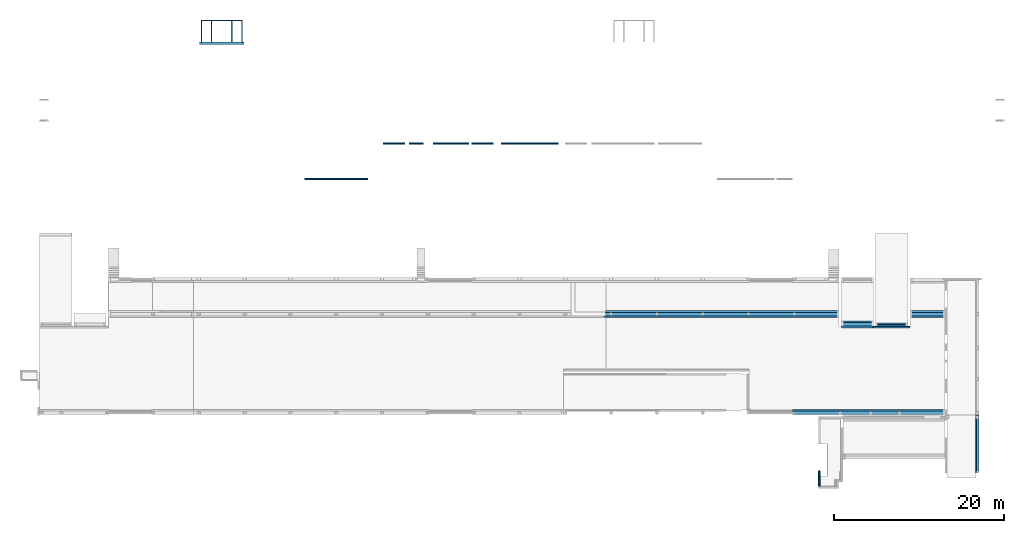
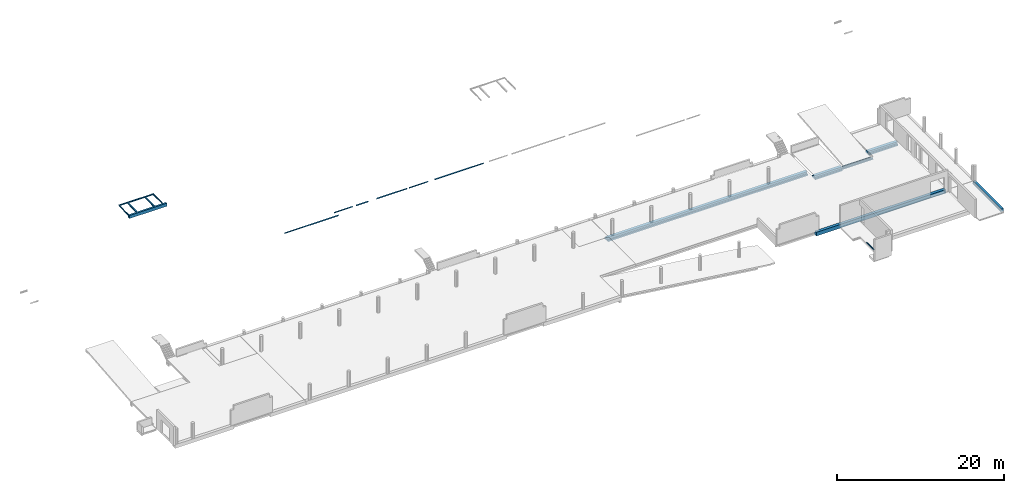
# One storey, part 2 of 9: 20 beams.
"""IFC2X3 building model written with IfcOpenShell, lengths in millimetres."""

from ifc_helpers import new_model, entity, si_unit, converted_unit, derived_unit, direction, frame, frame_2d, origin, place, context, subcontext, project, spatial, polyline, circle_curve, parameter, trimmed, segment, composite_curve, i_section, outline, extrude, material, type_object, element, save


model = new_model("IFC2X3")

# Units and contexts
model_context = context("Model", 3, precision=0.01, world=origin(), true_north=direction((6.12303176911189e-17, 1.0)))
body_context = subcontext(model_context, "Body", "Model", "MODEL_VIEW")
ifc_project = project(units=[si_unit("LENGTHUNIT", "METRE", prefix="MILLI"), si_unit("AREAUNIT", "SQUARE_METRE"), si_unit("VOLUMEUNIT", "CUBIC_METRE"), converted_unit("PLANEANGLEUNIT", "DEGREE", entity("IfcRatioMeasure", 0.0174532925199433), si_unit("PLANEANGLEUNIT", "RADIAN"), dimensions=[0, 0, 0, 0, 0, 0, 0]), si_unit("MASSUNIT", "GRAM", prefix="KILO"), derived_unit("MASSDENSITYUNIT", [(si_unit("MASSUNIT", "GRAM", prefix="KILO"), 1), (si_unit("LENGTHUNIT", "METRE"), -3)]), si_unit("TIMEUNIT", "SECOND"), si_unit("FREQUENCYUNIT", "HERTZ"), si_unit("THERMODYNAMICTEMPERATUREUNIT", "DEGREE_CELSIUS"), derived_unit("THERMALTRANSMITTANCEUNIT", [(si_unit("MASSUNIT", "GRAM", prefix="KILO"), 1), (si_unit("THERMODYNAMICTEMPERATUREUNIT", "KELVIN"), -1), (si_unit("TIMEUNIT", "SECOND"), -3)]), derived_unit("VOLUMETRICFLOWRATEUNIT", [(si_unit("LENGTHUNIT", "METRE"), 3), (si_unit("TIMEUNIT", "SECOND"), -1)]), si_unit("ELECTRICCURRENTUNIT", "AMPERE"), si_unit("ELECTRICVOLTAGEUNIT", "VOLT"), si_unit("POWERUNIT", "WATT"), si_unit("FORCEUNIT", "NEWTON", prefix="KILO"), si_unit("ILLUMINANCEUNIT", "LUX"), si_unit("LUMINOUSFLUXUNIT", "LUMEN"), si_unit("LUMINOUSINTENSITYUNIT", "CANDELA"), derived_unit("USERDEFINED", [(si_unit("MASSUNIT", "GRAM", prefix="KILO"), -1), (si_unit("LENGTHUNIT", "METRE"), -2), (si_unit("TIMEUNIT", "SECOND"), 3), (si_unit("LUMINOUSFLUXUNIT", "LUMEN"), 1)]), derived_unit("LINEARVELOCITYUNIT", [(si_unit("LENGTHUNIT", "METRE"), 1), (si_unit("TIMEUNIT", "SECOND"), -1)]), si_unit("PRESSUREUNIT", "PASCAL"), derived_unit("USERDEFINED", [(si_unit("LENGTHUNIT", "METRE"), -2), (si_unit("MASSUNIT", "GRAM", prefix="KILO"), 1), (si_unit("TIMEUNIT", "SECOND"), -2)])], contexts=[model_context])

# Site, building, storey
site_placement = place(None, origin())
site = spatial("IfcSite", under=ifc_project, at=site_placement, Name="Default", CompositionType="ELEMENT")
building_placement = place(site_placement, origin())
building = spatial("IfcBuilding", under=site, at=building_placement, Name="niet gebruiken", CompositionType="ELEMENT")
storey_placement = place(building_placement, frame((0.0, 0.0, 2770.0)))
storey = spatial("IfcBuildingStorey", under=building, at=storey_placement, Name="00a eerste tussenverdieping", CompositionType="ELEMENT", Elevation=2770.00000000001)

# Beams
ifc_material_1 = material(Name="NLRS_f2_beton prefab")
beam_type_1 = type_object("IfcBeamType", Name="NLRS_28.11_SF_WPB_prefabbeton balk enkele sponning_gen:600x540/200x200", PredefinedType="BEAM")
beam_1_placement = place(storey_placement, frame((97000.0, 9296.0, 10.0)))
element("IfcBeam", 1, at=beam_1_placement, inside=storey, type_object=beam_type_1, material=ifc_material_1, Name="NLRS_28.11_SF_WPB_prefabbeton balk enkele sponning_gen:600x540/200x200", ObjectType="NLRS_28.11_SF_WPB_prefabbeton balk enkele sponning_gen:600x540/200x200", context=body_context, shape_type="SweptSolid", body=[
    extrude(outline(polyline([(-293.333333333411, -333.333333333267), (246.666666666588, -333.333333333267), (246.666666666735, 266.666666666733), (46.6666666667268, 266.666666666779), (46.6666666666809, 66.6666666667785), (-293.333333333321, 66.6666666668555), (-293.333333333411, -333.333333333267)])), frame((0.0, 33.3333333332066, -293.333333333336), z_axis=(1.0, 0.0, 0.0), x_axis=(0.0, 0.0, -1.0)), (0.0, 0.0, 1.0), 17930.0004069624),
])
beam_type_2 = type_object("IfcBeamType", Name="NLRS_28.11_SF_WPB_prefabbeton balk dubbele sponning_gen:800x460/200x260/200x260", PredefinedType="BEAM")
beam_2_placement = place(storey_placement, frame((74750.0, 20846.0, -70.0)))
element("IfcBeam", 2, at=beam_2_placement, inside=storey, type_object=beam_type_2, material=ifc_material_1, Name="NLRS_28.11_SF_WPB_prefabbeton balk dubbele sponning_gen:800x460/200x260/200x260", ObjectType="NLRS_28.11_SF_WPB_prefabbeton balk dubbele sponning_gen:800x460/200x260/200x260", context=body_context, shape_type="SweptSolid", body=[
    extrude(outline(polyline([(15.0, -400.0), (215.0, -400.0), (215.0, 400.0), (15.0, 400.0), (15.0, 200.0), (-245.0, 200.0), (-245.0, -200.0), (15.0, -200.0), (15.0, -400.0)])), frame((0.0, 0.0, -245.0), z_axis=(1.0, 0.0, 0.0), x_axis=(0.0, 0.0, -1.0)), (0.0, 0.0, 1.0), 27705.0000000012),
])
beam_3_placement = place(storey_placement, frame((110845.0, 20846.0, -70.0)))
element("IfcBeam", 3, at=beam_3_placement, inside=storey, type_object=beam_type_2, material=ifc_material_1, Name="NLRS_28.11_SF_WPB_prefabbeton balk dubbele sponning_gen:800x460/200x260/200x260", ObjectType="NLRS_28.11_SF_WPB_prefabbeton balk dubbele sponning_gen:800x460/200x260/200x260", context=body_context, shape_type="SweptSolid", body=[
    extrude(outline(polyline([(15.0, -400.0), (215.0, -400.0), (215.0, 400.0), (15.0, 400.0), (15.0, 200.0), (-245.0, 200.0), (-245.0, -200.0), (15.0, -200.0), (15.0, -400.0)])), frame((0.0, 0.0, -245.0), z_axis=(1.0, 0.0, 0.0), x_axis=(0.0, 0.0, -1.0)), (0.0, 0.0, 1.0), 4085.00000000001),
])
beam_4_placement = place(storey_placement, frame((102745.0, 19626.0, -70.0)))
element("IfcBeam", 4, at=beam_4_placement, inside=storey, type_object=beam_type_2, material=ifc_material_1, Name="NLRS_28.11_SF_WPB_prefabbeton balk dubbele sponning_gen:800x460/200x260/200x260", ObjectType="NLRS_28.11_SF_WPB_prefabbeton balk dubbele sponning_gen:800x460/200x260/200x260", context=body_context, shape_type="SweptSolid", body=[
    extrude(outline(polyline([(15.0, -400.0), (215.0, -400.0), (215.0, 400.0), (15.0, 400.0), (15.0, 200.0), (-245.0, 200.0), (-245.0, -200.0), (15.0, -200.0), (15.0, -400.0)])), frame((0.0, 0.0, -245.0), z_axis=(1.0, 0.0, 0.0), x_axis=(0.0, 0.0, -1.0)), (0.0, 0.0, 1.0), 3760.00000000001),
])
ifc_material_2 = material(Name="NLRS_h2_staal")
beam_type_3 = type_object("IfcBeamType", Name="NLRS_28.11_SF_WPB_stalen ligger hoekprofiel gelijkzijdig_gen:ligger gelijzijdig hoekprofiel LEQU_200x200x15", PredefinedType="BEAM")
beam_5_placement = place(storey_placement, frame((106525.0, 19226.0, -252.499999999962)))
element("IfcBeam", 5, at=beam_5_placement, inside=storey, type_object=beam_type_3, material=ifc_material_2, Name="NLRS_28.11_SF_WPB_stalen ligger hoekprofiel gelijkzijdig_gen:ligger gelijzijdig hoekprofiel LEQU_200x200x15", ObjectType="NLRS_28.11_SF_WPB_stalen ligger hoekprofiel gelijkzijdig_gen:ligger gelijzijdig hoekprofiel LEQU_200x200x15", context=body_context, shape_type="SweptSolid", body=[
    extrude(outline(composite_curve([segment(polyline([(66.3333333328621, -126.666666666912), (73.3333333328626, -126.666666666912)]), True, "CONTINUOUS"), segment(polyline([(73.3333333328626, -126.666666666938), (73.3333333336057, 73.3333333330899)]), True, "CONTINUOUS"), segment(polyline([(73.3333333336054, 73.3333333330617), (-126.666666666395, 73.3333333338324)]), True, "CONTINUOUS"), segment(polyline([(-126.666666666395, 73.3333333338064), (-126.666666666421, 66.3333333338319)]), True, "CONTINUOUS"), segment(trimmed(circle_curve(frame_2d((-118.666666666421, 66.333333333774), x_axis=(-1.0, 0.0)), 8.00000000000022), [parameter(0.0)], [parameter(90.0000000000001)], True, "PARAMETER"), True, "CONTINUOUS"), segment(polyline([(-118.666666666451, 58.3333333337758), (42.333333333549, 58.333333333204)]), True, "CONTINUOUS"), segment(trimmed(circle_curve(frame_2d((42.3333333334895, 42.3333333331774), x_axis=(0.0, 1.0)), 16.0000000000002), [parameter(270.0)], [parameter(0.0)], True, "PARAMETER"), False, "CONTINUOUS"), segment(polyline([(58.3333333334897, 42.3333333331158), (58.333333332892, -118.666666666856)]), True, "CONTINUOUS"), segment(trimmed(circle_curve(frame_2d((66.3333333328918, -118.666666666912), x_axis=(-1.0, 0.0)), 8.00000000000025), [parameter(0.0)], [parameter(89.9999999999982)], True, "PARAMETER"), True, "CONTINUOUS")], self_intersect=False)), frame((0.0, 126.666666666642, -19.1666666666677), z_axis=(1.0, 0.0, 0.0), x_axis=(0.0, 0.0, -1.0)), (0.0, 0.0, 1.0), 4300.0000000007),
])
beam_6_placement = place(storey_placement, frame((100117.5, 2375.0, 1430.0), z_axis=(0.0, 0.0, 1.0), x_axis=(0.0, -1.0, 0.0)))
element("IfcBeam", 6, at=beam_6_placement, inside=storey, type_object=beam_type_3, material=ifc_material_2, Name="NLRS_28.11_SF_WPB_stalen ligger hoekprofiel gelijkzijdig_gen:ligger gelijzijdig hoekprofiel LEQU_200x200x15", ObjectType="NLRS_28.11_SF_WPB_stalen ligger hoekprofiel gelijkzijdig_gen:ligger gelijzijdig hoekprofiel LEQU_200x200x15", context=body_context, shape_type="SweptSolid", body=[
    extrude(outline(composite_curve([segment(polyline([(-126.666666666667, -73.3333333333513), (73.333333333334, -73.3333333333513)]), True, "CONTINUOUS"), segment(polyline([(73.333333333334, -73.333333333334), (73.333333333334, 126.666666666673)]), True, "CONTINUOUS"), segment(polyline([(73.333333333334, 126.666666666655), (66.3333333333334, 126.666666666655)]), True, "CONTINUOUS"), segment(trimmed(circle_curve(frame_2d((66.3333333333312, 118.666666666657), x_axis=(0.0, 1.0)), 7.99999999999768), [parameter(0.0)], [parameter(90.0000000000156)], True, "PARAMETER"), True, "CONTINUOUS"), segment(polyline([(58.3333333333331, 118.666666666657), (58.3333333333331, -42.333333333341)]), True, "CONTINUOUS"), segment(trimmed(circle_curve(frame_2d((42.3333333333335, -42.333333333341), x_axis=(1.0, 0.0)), 15.9999999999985), [parameter(269.999999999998)], [parameter(0.0)], True, "PARAMETER"), False, "CONTINUOUS"), segment(polyline([(42.3333333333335, -58.3333333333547), (-118.666666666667, -58.3333333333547)]), True, "CONTINUOUS"), segment(trimmed(circle_curve(frame_2d((-118.666666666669, -66.3333333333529), x_axis=(0.0, 1.0)), 7.99999999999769), [parameter(0.0)], [parameter(90.0000000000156)], True, "PARAMETER"), True, "CONTINUOUS"), segment(polyline([(-126.666666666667, -66.3333333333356), (-126.666666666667, -73.333333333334)]), True, "CONTINUOUS")], self_intersect=False)), frame((0.0, -19.1666666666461, 73.3333333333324), z_axis=(1.0, 0.0, 0.0), x_axis=(0.0, 0.0, -1.0)), (0.0, 0.0, 1.0), 1819.99999999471),
])
beam_type_4 = type_object("IfcBeamType", Name="NLRS_28.11_SF_WPB_stalen ligger buisprofiel warmgevormd vierkant_gen:ligger buisprofiel warmgevormd vierkant SHSH_250x450x10", PredefinedType="BEAM")
beam_7_placement = place(storey_placement, frame((27100.0, 52764.5000000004, 470.0)))
element("IfcBeam", 7, at=beam_7_placement, inside=storey, type_object=beam_type_4, material=ifc_material_2, Name="NLRS_28.11_SF_WPB_stalen ligger buisprofiel warmgevormd vierkant_gen:ligger buisprofiel warmgevormd vierkant SHSH_250x450x10", ObjectType="NLRS_28.11_SF_WPB_stalen ligger buisprofiel warmgevormd vierkant_gen:ligger buisprofiel warmgevormd vierkant SHSH_250x450x10", context=body_context, shape_type="SweptSolid", body=[
    extrude(outline(polyline([(-125.0, -225.0), (125.0, -225.0), (125.0, 225.0), (-125.0, 225.0), (-125.0, -225.0)]), holes=[composite_curve([segment(trimmed(circle_curve(frame_2d((-105.0, -205.0), x_axis=(-1.0, 0.0)), 10.0), [parameter(360.0)], [parameter(89.9999999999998)], True, "PARAMETER"), False, "CONTINUOUS"), segment(polyline([(-115.0, -205.0), (-115.0, 205.0)]), True, "CONTINUOUS"), segment(trimmed(circle_curve(frame_2d((-105.0, 205.0), x_axis=(-1.0, 0.0)), 10.0), [parameter(269.999999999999)], [parameter(360.0)], True, "PARAMETER"), False, "CONTINUOUS"), segment(polyline([(-105.0, 215.0), (105.0, 215.0)]), True, "CONTINUOUS"), segment(trimmed(circle_curve(frame_2d((105.0, 205.0), x_axis=(-1.0, 0.0)), 10.0), [parameter(180.0)], [parameter(269.999999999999)], True, "PARAMETER"), False, "CONTINUOUS"), segment(polyline([(115.0, 205.0), (115.0, -205.0)]), True, "CONTINUOUS"), segment(trimmed(circle_curve(frame_2d((105.0, -205.0), x_axis=(-1.0, 0.0)), 10.0), [parameter(89.9999999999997)], [parameter(180.0)], True, "PARAMETER"), False, "CONTINUOUS"), segment(polyline([(105.0, -215.0), (-105.0, -215.0)]), True, "CONTINUOUS")], self_intersect=False)]), frame((0.0, 0.0, -225.0), z_axis=(1.0, 0.0, 0.0), x_axis=(0.0, -1.0, 0.0)), (0.0, 0.0, 1.0), 5200.0),
])
beam_type_5 = type_object("IfcBeamType", Name="NLRS_28.11_SF_WPB_prefabbeton balk enkele sponning_gen:400x385/100x210", PredefinedType="BEAM")
beam_8_placement = place(storey_placement, frame((118750.0, 2124.27078525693, 0.0), z_axis=(0.0, 0.0, 1.0), x_axis=(0.0, 1.0, 0.0)))
element("IfcBeam", 8, at=beam_8_placement, inside=storey, type_object=beam_type_5, material=ifc_material_1, Name="NLRS_28.11_SF_WPB_prefabbeton balk enkele sponning_gen:400x385/100x210", ObjectType="NLRS_28.11_SF_WPB_prefabbeton balk enkele sponning_gen:400x385/100x210", context=body_context, shape_type="SweptSolid", body=[
    extrude(outline(polyline([(-198.333333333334, -233.33333333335), (186.666666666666, -233.33333333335), (186.666666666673, 166.666666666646), (11.6666666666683, 166.666666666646), (11.6666666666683, 66.6666666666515), (-198.333333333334, 66.6666666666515), (-198.333333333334, -233.33333333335)])), frame((0.0, 33.3333333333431, -198.333333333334), z_axis=(1.0, 0.0, 0.0), x_axis=(0.0, 0.0, -1.0)), (0.0, 0.0, 1.0), 6795.62186044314),
])
beam_type_6 = type_object("IfcBeamType", Name="NLRS_28.11_SF_WPB_prefabbeton balk enkele sponning_gen:380x370/180x150", PredefinedType="BEAM")
beam_9_placement = place(storey_placement, frame((110555.0, 19616.0, -80.0), z_axis=(0.0, 0.0, 1.0), x_axis=(-1.0, 0.0, 0.0)))
element("IfcBeam", 9, at=beam_9_placement, inside=storey, type_object=beam_type_6, material=ifc_material_1, Name="NLRS_28.11_SF_WPB_prefabbeton balk enkele sponning_gen:380x370/180x150", ObjectType="NLRS_28.11_SF_WPB_prefabbeton balk enkele sponning_gen:380x370/180x150", context=body_context, shape_type="SweptSolid", body=[
    extrude(outline(polyline([(-23.3333333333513, -186.66666666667), (196.666666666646, -186.66666666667), (196.666666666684, 193.333333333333), (-173.333333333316, 193.333333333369), (-173.333333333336, -6.66666666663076), (-23.3333333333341, -6.66666666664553), (-23.3333333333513, -186.66666666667)])), frame((0.0, -3.33333333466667, -173.333333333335), z_axis=(1.0, 0.0, 0.0), x_axis=(0.0, 0.0, -1.0)), (0.0, 0.0, 1.0), 3759.99999999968),
])
ifc_material_3 = material(Name="NLRS_h2_staal_gen_rsf")
beam_type_7 = type_object("IfcBeamType", Name="NLRS_28.11_SF_WPB_stalen ligger UNP_gen:160", PredefinedType="BEAM")
beam_10_placement = place(storey_placement, frame((32053.3999999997, 52889.5000000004, 30.0), z_axis=(0.0, -0.0168011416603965, 0.999858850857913), x_axis=(0.0, 0.999858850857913, 0.0168011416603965)))
element("IfcBeam", 10, at=beam_10_placement, inside=storey, type_object=beam_type_7, material=ifc_material_3, Name="NLRS_28.11_SF_WPB_stalen ligger UNP_gen:160", ObjectType="NLRS_28.11_SF_WPB_stalen ligger UNP_gen:160", context=body_context, shape_type="SweptSolid", body=[
    extrude(outline(composite_curve([segment(polyline([(-80.0, -29.2332091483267), (-76.8801012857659, -29.2332091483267)]), True, "CONTINUOUS"), segment(trimmed(circle_curve(frame_2d((-76.8801012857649, -23.7332091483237), x_axis=(0.0, -1.0)), 5.49999999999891), [parameter(0.0)], [parameter(85.420000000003)], True, "PARAMETER"), True, "CONTINUOUS"), segment(polyline([(-71.3976638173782, -24.1723895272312), (-67.9708870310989, 18.6052261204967)]), True, "CONTINUOUS"), segment(trimmed(circle_curve(frame_2d((-57.5044155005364, 17.7667908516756), x_axis=(-0.996806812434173, 0.0798509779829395)), 10.500000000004), [parameter(274.580000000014)], [parameter(0.0)], True, "PARAMETER"), False, "CONTINUOUS"), segment(polyline([(-57.5044155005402, 28.2667908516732), (57.5044155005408, 28.2667908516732)]), True, "CONTINUOUS"), segment(trimmed(circle_curve(frame_2d((57.5044155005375, 17.7667908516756), x_axis=(0.0, 1.0)), 10.5000000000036), [parameter(274.580000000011)], [parameter(0.0)], True, "PARAMETER"), False, "CONTINUOUS"), segment(polyline([(67.9708870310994, 18.6052261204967), (71.3976638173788, -24.1723895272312)]), True, "CONTINUOUS"), segment(trimmed(circle_curve(frame_2d((76.8801012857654, -23.7332091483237), x_axis=(-0.996806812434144, -0.079850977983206)), 5.49999999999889), [parameter(0.0)], [parameter(85.420000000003)], True, "PARAMETER"), True, "CONTINUOUS"), segment(polyline([(76.8801012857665, -29.2332091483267), (80.0, -29.2332091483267)]), True, "CONTINUOUS"), segment(polyline([(80.0, -29.2332091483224), (80.0, 35.7667908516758)]), True, "CONTINUOUS"), segment(polyline([(80.0, 35.7667908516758), (-80.0, 35.7667908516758)]), True, "CONTINUOUS"), segment(polyline([(-80.0, 35.7667908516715), (-80.0, -29.2332091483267)]), True, "CONTINUOUS")], self_intersect=False)), frame((0.0, -17.3667908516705, 80.0), z_axis=(1.0, 0.0, 0.0), x_axis=(0.0, 0.0, -1.0)), (0.0, 0.0, 1.0), 2618.8696512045),
])
beam_11_placement = place(storey_placement, frame((32035.0, 55461.4000000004, 74.0), z_axis=(0.0, 0.0, 1.0), x_axis=(-1.0, 0.0, 0.0)))
element("IfcBeam", 11, at=beam_11_placement, inside=storey, type_object=beam_type_7, material=ifc_material_3, Name="NLRS_28.11_SF_WPB_stalen ligger UNP_gen:160", ObjectType="NLRS_28.11_SF_WPB_stalen ligger UNP_gen:160", context=body_context, shape_type="SweptSolid", body=[
    extrude(outline(composite_curve([segment(polyline([(-35.7667908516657, -80.0), (29.2332091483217, -80.0)]), True, "CONTINUOUS"), segment(polyline([(29.2332091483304, -80.0), (29.2332091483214, -76.8801012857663)]), True, "CONTINUOUS"), segment(trimmed(circle_curve(frame_2d((23.7332091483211, -76.8801012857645), x_axis=(1.0, 0.0)), 5.49999999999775), [parameter(0.0)], [parameter(85.4200000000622)], True, "PARAMETER"), True, "CONTINUOUS"), segment(polyline([(24.1723895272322, -71.3976638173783), (-18.6052261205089, -67.9708870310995)]), True, "CONTINUOUS"), segment(trimmed(circle_curve(frame_2d((-17.7667908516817, -57.504415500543), x_axis=(-0.0798509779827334, -0.996806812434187)), 10.499999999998), [parameter(274.57999999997)], [parameter(0.0)], True, "PARAMETER"), False, "CONTINUOUS"), segment(polyline([(-28.2667908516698, -57.5044155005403), (-28.2667908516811, 57.5044155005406)]), True, "CONTINUOUS"), segment(trimmed(circle_curve(frame_2d((-17.7667908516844, 57.5044155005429), x_axis=(-1.0, 0.0)), 10.4999999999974), [parameter(274.579999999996)], [parameter(0.0)], True, "PARAMETER"), False, "CONTINUOUS"), segment(polyline([(-18.605226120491, 67.9708870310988), (24.1723895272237, 71.3976638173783)]), True, "CONTINUOUS"), segment(trimmed(circle_curve(frame_2d((23.733209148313, 76.8801012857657), x_axis=(0.0798509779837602, -0.996806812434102)), 5.49999999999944), [parameter(0.0)], [parameter(85.419999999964)], True, "PARAMETER"), True, "CONTINUOUS"), segment(polyline([(29.2332091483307, 76.8801012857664), (29.2332091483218, 80.0)]), True, "CONTINUOUS"), segment(polyline([(29.2332091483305, 80.0), (-35.7667908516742, 80.0)]), True, "CONTINUOUS"), segment(polyline([(-35.7667908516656, 80.0), (-35.7667908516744, -80.0)]), True, "CONTINUOUS")], self_intersect=False)), frame((0.0, -15.9861703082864, 80.2872828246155), z_axis=(1.0, 0.0, 0.0), x_axis=(0.0, -0.999851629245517, 0.0172255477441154)), (0.0, 0.0, 1.0), 4670.0),
])
beam_12_placement = place(storey_placement, frame((27346.5999999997, 55508.0, 74.0), z_axis=(0.0, -0.0168011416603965, 0.999858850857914), x_axis=(0.0, -0.999858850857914, -0.0168011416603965)))
element("IfcBeam", 12, at=beam_12_placement, inside=storey, type_object=beam_type_7, material=ifc_material_3, Name="NLRS_28.11_SF_WPB_stalen ligger UNP_gen:160", ObjectType="NLRS_28.11_SF_WPB_stalen ligger UNP_gen:160", context=body_context, shape_type="SweptSolid", body=[
    extrude(outline(composite_curve([segment(polyline([(-80.0, -29.2332091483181), (-76.8801012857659, -29.2332091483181)]), True, "CONTINUOUS"), segment(trimmed(circle_curve(frame_2d((-76.8801012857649, -23.733209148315), x_axis=(0.0, -1.0)), 5.49999999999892), [parameter(0.0)], [parameter(85.420000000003)], True, "PARAMETER"), True, "CONTINUOUS"), segment(polyline([(-71.3976638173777, -24.1723895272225), (-67.9708870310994, 18.6052261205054)]), True, "CONTINUOUS"), segment(trimmed(circle_curve(frame_2d((-57.504415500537, 17.7667908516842), x_axis=(-0.996806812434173, 0.0798509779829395)), 10.500000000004), [parameter(274.580000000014)], [parameter(0.0)], True, "PARAMETER"), False, "CONTINUOUS"), segment(polyline([(-57.5044155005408, 28.2667908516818), (57.5044155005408, 28.2667908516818)]), True, "CONTINUOUS"), segment(trimmed(circle_curve(frame_2d((57.5044155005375, 17.7667908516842), x_axis=(0.0, 1.0)), 10.5000000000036), [parameter(274.580000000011)], [parameter(0.0)], True, "PARAMETER"), False, "CONTINUOUS"), segment(polyline([(67.9708870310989, 18.6052261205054), (71.3976638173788, -24.1723895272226)]), True, "CONTINUOUS"), segment(trimmed(circle_curve(frame_2d((76.8801012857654, -23.733209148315), x_axis=(-0.996806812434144, -0.079850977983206)), 5.4999999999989), [parameter(0.0)], [parameter(85.420000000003)], True, "PARAMETER"), True, "CONTINUOUS"), segment(polyline([(76.8801012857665, -29.2332091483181), (80.0, -29.2332091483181)]), True, "CONTINUOUS"), segment(polyline([(80.0, -29.2332091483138), (80.0, 35.7667908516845)]), True, "CONTINUOUS"), segment(polyline([(80.0, 35.7667908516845), (-80.0, 35.7667908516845)]), True, "CONTINUOUS"), segment(polyline([(-80.0, 35.7667908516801), (-80.0, -29.2332091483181)]), True, "CONTINUOUS")], self_intersect=False)), frame((0.0, -17.3667908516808, 80.0), z_axis=(1.0, 0.0, 0.0), x_axis=(0.0, 0.0, -1.0)), (0.0, 0.0, 1.0), 2618.8696512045),
])
beam_type_8 = type_object("IfcBeamType", Name="NLRS_28.11_SF_WPB_stalen ligger HEB_gen:ligger HEB 160", PredefinedType="BEAM")
for number, where, z_axis, x_axis, name in (
    (13, (30900.0, 52889.5000000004, 30.0), (0.0, -0.0172286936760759, 0.999851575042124), (0.0, 0.999851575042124, 0.0172286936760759), "NLRS_28.11_SF_WPB_stalen ligger HEB_gen:ligger HEB 160"),
    (14, (28500.0, 52889.5000000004, 30.0), (0.0, -0.0172286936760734, 0.999851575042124), (0.0, 0.999851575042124, 0.0172286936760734), "NLRS_28.11_SF_WPB_stalen ligger HEB_gen:ligger HEB 160"),
):
    element("IfcBeam", number, at=place(storey_placement, frame(where, z_axis=z_axis, x_axis=x_axis)), inside=storey, type_object=beam_type_8, material=ifc_material_2, Name=name, ObjectType="NLRS_28.11_SF_WPB_stalen ligger HEB_gen:ligger HEB 160", context=body_context, shape_type="SweptSolid", body=[
        extrude(i_section(OverallWidth=159.999999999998, OverallDepth=160.0, WebThickness=7.99999999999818, FlangeThickness=12.999999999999, FilletRadius=15.0000000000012, at=frame_2d((-1.08713038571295e-12, 4.32720526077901e-12), x_axis=(0.0, 1.0))), frame((0.0, 0.0, 80.0), z_axis=(1.0, 0.0, 0.0), x_axis=(0.0, 0.0, -1.0)), (0.0, 0.0, 1.0), 2553.87905939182),
    ])
beam_type_9 = type_object("IfcBeamType", Name="NLRS_28.11_SF_WPB_stalen ligger hoekprofiel gelijkzijdig_gen:ligger gelijzijdig hoekprofiel LEQU_200x200x16", PredefinedType="BEAM")
beam_13_placement = place(storey_placement, frame((48745.0, 41061.0, 440.0)))
element("IfcBeam", 15, at=beam_13_placement, inside=storey, type_object=beam_type_9, material=ifc_material_2, Name="NLRS_28.11_SF_WPB_stalen ligger hoekprofiel gelijkzijdig_gen:ligger gelijzijdig hoekprofiel LEQU_200x200x16", ObjectType="NLRS_28.11_SF_WPB_stalen ligger hoekprofiel gelijkzijdig_gen:ligger gelijzijdig hoekprofiel LEQU_200x200x16", context=body_context, shape_type="SweptSolid", body=[
    extrude(outline(composite_curve([segment(polyline([(-73.77777777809, -126.222222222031), (-66.7777777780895, -126.222222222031)]), True, "CONTINUOUS"), segment(trimmed(circle_curve(frame_2d((-66.7777777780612, -117.222222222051), x_axis=(0.0, -1.0)), 8.99999999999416), [parameter(0.0)], [parameter(90.000000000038)], True, "PARAMETER"), True, "CONTINUOUS"), segment(polyline([(-57.7777777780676, -117.222222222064), (-57.7777777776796, 39.7777777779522)]), True, "CONTINUOUS"), segment(trimmed(circle_curve(frame_2d((-39.7777777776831, 39.7777777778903), x_axis=(-1.0, 0.0)), 17.9999999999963), [parameter(269.999999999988)], [parameter(0.0)], True, "PARAMETER"), False, "CONTINUOUS"), segment(polyline([(-39.7777777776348, 57.7777777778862), (117.222222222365, 57.7777777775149)]), True, "CONTINUOUS"), segment(trimmed(circle_curve(frame_2d((117.222222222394, 66.7777777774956), x_axis=(0.0, -1.0)), 8.99999999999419), [parameter(0.0)], [parameter(90.000000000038)], True, "PARAMETER"), True, "CONTINUOUS"), segment(polyline([(126.222222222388, 66.7777777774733), (126.222222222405, 73.777777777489)]), True, "CONTINUOUS"), segment(polyline([(126.222222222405, 73.7777777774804), (-73.7777777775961, 73.7777777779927)]), True, "CONTINUOUS"), segment(polyline([(-73.7777777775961, 73.7777777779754), (-73.7777777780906, -126.222222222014)]), True, "CONTINUOUS")], self_intersect=False)), frame((0.0, -73.7777777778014, -73.7777777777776), z_axis=(1.0, 0.0, 0.0), x_axis=(0.0, 0.0, -1.0)), (0.0, 0.0, 1.0), 2550.00000000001),
])
beam_14_placement = place(storey_placement, frame((51805.0, 41061.0, 440.0)))
element("IfcBeam", 16, at=beam_14_placement, inside=storey, type_object=beam_type_9, material=ifc_material_2, Name="NLRS_28.11_SF_WPB_stalen ligger hoekprofiel gelijkzijdig_gen:ligger gelijzijdig hoekprofiel LEQU_200x200x16", ObjectType="NLRS_28.11_SF_WPB_stalen ligger hoekprofiel gelijkzijdig_gen:ligger gelijzijdig hoekprofiel LEQU_200x200x16", context=body_context, shape_type="SweptSolid", body=[
    extrude(outline(composite_curve([segment(polyline([(-73.7777777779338, -126.222222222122), (-66.7777777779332, -126.222222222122)]), True, "CONTINUOUS"), segment(trimmed(circle_curve(frame_2d((-66.7777777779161, -117.222222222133), x_axis=(0.0, -1.0)), 8.99999999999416), [parameter(0.0)], [parameter(90.000000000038)], True, "PARAMETER"), True, "CONTINUOUS"), segment(polyline([(-57.7777777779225, -117.222222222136), (-57.7777777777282, 39.777777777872)]), True, "CONTINUOUS"), segment(trimmed(circle_curve(frame_2d((-39.7777777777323, 39.7777777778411), x_axis=(-1.0, 0.0)), 17.9999999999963), [parameter(269.999999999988)], [parameter(0.0)], True, "PARAMETER"), False, "CONTINUOUS"), segment(polyline([(-39.7777777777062, 57.777777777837), (117.222222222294, 57.7777777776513)]), True, "CONTINUOUS"), segment(trimmed(circle_curve(frame_2d((117.222222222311, 66.7777777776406), x_axis=(0.0, -1.0)), 8.99999999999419), [parameter(0.0)], [parameter(90.000000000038)], True, "PARAMETER"), True, "CONTINUOUS"), segment(polyline([(126.222222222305, 66.7777777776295), (126.222222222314, 73.7777777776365)]), True, "CONTINUOUS"), segment(polyline([(126.222222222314, 73.7777777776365), (-73.7777777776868, 73.7777777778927)]), True, "CONTINUOUS"), segment(polyline([(-73.7777777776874, 73.7777777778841), (-73.7777777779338, -126.222222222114)]), True, "CONTINUOUS")], self_intersect=False)), frame((0.0, -73.7777777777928, -73.7777777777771), z_axis=(1.0, 0.0, 0.0), x_axis=(0.0, 0.0, -1.0)), (0.0, 0.0, 1.0), 1650.00000000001),
])
beam_15_placement = place(storey_placement, frame((54617.0, 41061.0, 440.0)))
element("IfcBeam", 17, at=beam_15_placement, inside=storey, type_object=beam_type_9, material=ifc_material_2, Name="NLRS_28.11_SF_WPB_stalen ligger hoekprofiel gelijkzijdig_gen:ligger gelijzijdig hoekprofiel LEQU_200x200x16", ObjectType="NLRS_28.11_SF_WPB_stalen ligger hoekprofiel gelijkzijdig_gen:ligger gelijzijdig hoekprofiel LEQU_200x200x16", context=body_context, shape_type="SweptSolid", body=[
    extrude(outline(composite_curve([segment(polyline([(-73.7777777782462, -126.222222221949), (-66.7777777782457, -126.222222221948)]), True, "CONTINUOUS"), segment(trimmed(circle_curve(frame_2d((-66.7777777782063, -117.222222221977), x_axis=(0.0, -1.0)), 8.99999999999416), [parameter(0.0)], [parameter(90.000000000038)], True, "PARAMETER"), True, "CONTINUOUS"), segment(polyline([(-57.7777777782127, -117.222222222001), (-57.7777777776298, 39.7777777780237)]), True, "CONTINUOUS"), segment(trimmed(circle_curve(frame_2d((-39.7777777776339, 39.7777777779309), x_axis=(-1.0, 0.0)), 17.9999999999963), [parameter(269.999999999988)], [parameter(0.0)], True, "PARAMETER"), False, "CONTINUOUS"), segment(polyline([(-39.7777777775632, 57.7777777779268), (117.222222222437, 57.7777777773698)]), True, "CONTINUOUS"), segment(trimmed(circle_curve(frame_2d((117.222222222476, 66.7777777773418), x_axis=(0.0, -1.0)), 8.99999999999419), [parameter(0.0)], [parameter(90.000000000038)], True, "PARAMETER"), True, "CONTINUOUS"), segment(polyline([(126.22222222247, 66.7777777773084), (126.222222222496, 73.7777777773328)]), True, "CONTINUOUS"), segment(polyline([(126.222222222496, 73.7777777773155), (-73.7777777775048, 73.777777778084)]), True, "CONTINUOUS"), segment(polyline([(-73.7777777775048, 73.777777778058), (-73.7777777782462, -126.222222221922)]), True, "CONTINUOUS")], self_intersect=False)), frame((0.0, -73.7777777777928, -73.7777777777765), z_axis=(1.0, 0.0, 0.0), x_axis=(0.0, 0.0, -1.0)), (0.0, 0.0, 1.0), 4200.0),
])
beam_16_placement = place(storey_placement, frame((59159.0, 41061.0, 440.0)))
element("IfcBeam", 18, at=beam_16_placement, inside=storey, type_object=beam_type_9, material=ifc_material_2, Name="NLRS_28.11_SF_WPB_stalen ligger hoekprofiel gelijkzijdig_gen:ligger gelijzijdig hoekprofiel LEQU_200x200x16", ObjectType="NLRS_28.11_SF_WPB_stalen ligger hoekprofiel gelijkzijdig_gen:ligger gelijzijdig hoekprofiel LEQU_200x200x16", context=body_context, shape_type="SweptSolid", body=[
    extrude(outline(composite_curve([segment(polyline([(-73.77777777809, -126.22222222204), (-66.7777777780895, -126.22222222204)]), True, "CONTINUOUS"), segment(trimmed(circle_curve(frame_2d((-66.7777777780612, -117.222222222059), x_axis=(0.0, -1.0)), 8.99999999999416), [parameter(0.0)], [parameter(90.000000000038)], True, "PARAMETER"), True, "CONTINUOUS"), segment(polyline([(-57.7777777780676, -117.222222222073), (-57.7777777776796, 39.7777777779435)]), True, "CONTINUOUS"), segment(trimmed(circle_curve(frame_2d((-39.7777777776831, 39.7777777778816), x_axis=(-1.0, 0.0)), 17.9999999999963), [parameter(269.999999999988)], [parameter(0.0)], True, "PARAMETER"), False, "CONTINUOUS"), segment(polyline([(-39.7777777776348, 57.7777777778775), (117.222222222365, 57.7777777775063)]), True, "CONTINUOUS"), segment(trimmed(circle_curve(frame_2d((117.222222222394, 66.7777777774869), x_axis=(0.0, -1.0)), 8.99999999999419), [parameter(0.0)], [parameter(90.000000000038)], True, "PARAMETER"), True, "CONTINUOUS"), segment(polyline([(126.222222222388, 66.7777777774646), (126.222222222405, 73.7777777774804)]), True, "CONTINUOUS"), segment(polyline([(126.222222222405, 73.7777777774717), (-73.7777777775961, 73.777777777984)]), True, "CONTINUOUS"), segment(polyline([(-73.7777777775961, 73.7777777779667), (-73.7777777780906, -126.222222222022)]), True, "CONTINUOUS")], self_intersect=False)), frame((0.0, -73.7777777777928, -73.7777777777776), z_axis=(1.0, 0.0, 0.0), x_axis=(0.0, 0.0, -1.0)), (0.0, 0.0, 1.0), 2550.0),
])
beam_17_placement = place(storey_placement, frame((62641.0, 41061.0, 440.0)))
element("IfcBeam", 19, at=beam_17_placement, inside=storey, type_object=beam_type_9, material=ifc_material_2, Name="NLRS_28.11_SF_WPB_stalen ligger hoekprofiel gelijkzijdig_gen:ligger gelijzijdig hoekprofiel LEQU_200x200x16", ObjectType="NLRS_28.11_SF_WPB_stalen ligger hoekprofiel gelijkzijdig_gen:ligger gelijzijdig hoekprofiel LEQU_200x200x16", context=body_context, shape_type="SweptSolid", body=[
    extrude(outline(composite_curve([segment(polyline([(-73.7777777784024, -126.222222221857), (-66.7777777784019, -126.222222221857)]), True, "CONTINUOUS"), segment(trimmed(circle_curve(frame_2d((-66.7777777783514, -117.222222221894), x_axis=(0.0, -1.0)), 8.99999999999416), [parameter(0.0)], [parameter(90.000000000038)], True, "PARAMETER"), True, "CONTINUOUS"), segment(polyline([(-57.7777777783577, -117.22222222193), (-57.7777777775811, 39.7777777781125)]), True, "CONTINUOUS"), segment(trimmed(circle_curve(frame_2d((-39.7777777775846, 39.7777777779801), x_axis=(-1.0, 0.0)), 17.9999999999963), [parameter(269.999999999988)], [parameter(0.0)], True, "PARAMETER"), False, "CONTINUOUS"), segment(polyline([(-39.7777777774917, 57.777777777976), (117.222222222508, 57.7777777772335)]), True, "CONTINUOUS"), segment(trimmed(circle_curve(frame_2d((117.222222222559, 66.7777777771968), x_axis=(0.0, -1.0)), 8.99999999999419), [parameter(0.0)], [parameter(90.000000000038)], True, "PARAMETER"), True, "CONTINUOUS"), segment(polyline([(126.222222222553, 66.7777777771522), (126.222222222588, 73.7777777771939)]), True, "CONTINUOUS"), segment(polyline([(126.222222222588, 73.7777777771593), (-73.7777777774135, 73.777777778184)]), True, "CONTINUOUS"), segment(polyline([(-73.7777777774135, 73.7777777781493), (-73.777777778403, -126.222222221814)]), True, "CONTINUOUS")], self_intersect=False)), frame((0.0, -73.7777777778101, -73.7777777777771), z_axis=(1.0, 0.0, 0.0), x_axis=(0.0, 0.0, -1.0)), (0.0, 0.0, 1.0), 6750.0),
])
beam_18_placement = place(storey_placement, frame((39455.0181333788, 36856.0, 3240.0)))
element("IfcBeam", 20, at=beam_18_placement, inside=storey, type_object=beam_type_9, material=ifc_material_2, Name="NLRS_28.11_SF_WPB_stalen ligger hoekprofiel gelijkzijdig_gen:ligger gelijzijdig hoekprofiel LEQU_200x200x16", ObjectType="NLRS_28.11_SF_WPB_stalen ligger hoekprofiel gelijkzijdig_gen:ligger gelijzijdig hoekprofiel LEQU_200x200x16", context=body_context, shape_type="SweptSolid", body=[
    extrude(outline(composite_curve([segment(polyline([(-73.7777777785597, -126.222222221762), (-66.7777777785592, -126.222222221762)]), True, "CONTINUOUS"), segment(trimmed(circle_curve(frame_2d((-66.7777777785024, -117.222222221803), x_axis=(0.0, -1.0)), 8.99999999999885), [parameter(0.0)], [parameter(90.000000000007)], True, "PARAMETER"), True, "CONTINUOUS"), segment(polyline([(-57.7777777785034, -117.222222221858), (-57.7777777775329, 39.777777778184)]), True, "CONTINUOUS"), segment(trimmed(circle_curve(frame_2d((-39.7777777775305, 39.7777777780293), x_axis=(-1.0, 0.0)), 18.0000000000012), [parameter(270.000000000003)], [parameter(0.0)], True, "PARAMETER"), False, "CONTINUOUS"), segment(polyline([(-39.7777777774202, 57.7777777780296), (117.22222222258, 57.7777777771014)]), True, "CONTINUOUS"), segment(trimmed(circle_curve(frame_2d((117.222222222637, 66.7777777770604), x_axis=(0.0, -1.0)), 8.99999999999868), [parameter(0.0)], [parameter(90.000000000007)], True, "PARAMETER"), True, "CONTINUOUS"), segment(polyline([(126.222222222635, 66.7777777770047), (126.222222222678, 73.7777777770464)]), True, "CONTINUOUS"), segment(polyline([(126.222222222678, 73.7777777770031), (-73.7777777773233, 73.7777777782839)]), True, "CONTINUOUS"), segment(polyline([(-73.7777777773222, 73.7777777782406), (-73.7777777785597, -126.222222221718)]), True, "CONTINUOUS")], self_intersect=False)), frame((20.0, -73.7777777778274, -73.7777777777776), z_axis=(1.0, 0.0, 0.0), x_axis=(0.0, 0.0, -1.0)), (0.0, 0.0, 1.0), 7449.98186661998),
])

save(model, "model.ifc")
